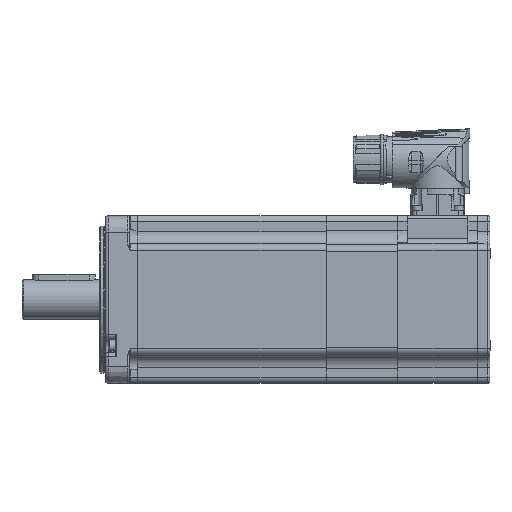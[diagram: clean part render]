
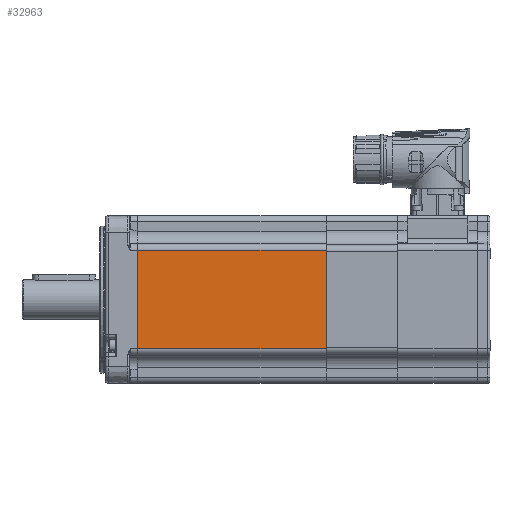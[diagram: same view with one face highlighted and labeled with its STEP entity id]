
A CAD part, left-side view. The second image highlights one B-rep face of the part: STEP entity #32963.
In plain terms, the highlighted planar face has unit normal (-1, 0, 0) as drawn and (0, -1, 0) by its records, which use the part's own axes.
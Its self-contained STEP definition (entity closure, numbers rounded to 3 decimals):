
#3222=LINE('',#65713,#5298);
#3230=LINE('',#65764,#5306);
#3237=LINE('',#65815,#5313);
#3238=LINE('',#65816,#5314);
#5298=VECTOR('',#53268,1000.);
#5306=VECTOR('',#53312,1000.);
#5313=VECTOR('',#53365,1000.);
#5314=VECTOR('',#53366,1000.);
#6660=PLANE('',#47477);
#10976=ORIENTED_EDGE('',*,*,#18583,.T.);
#10977=ORIENTED_EDGE('',*,*,#18561,.T.);
#10978=ORIENTED_EDGE('',*,*,#18584,.T.);
#10979=ORIENTED_EDGE('',*,*,#18536,.T.);
#18536=EDGE_CURVE('',#22686,#22685,#3222,.T.);
#18561=EDGE_CURVE('',#22711,#22710,#3230,.T.);
#18583=EDGE_CURVE('',#22685,#22711,#3237,.F.);
#18584=EDGE_CURVE('',#22710,#22686,#3238,.F.);
#22685=VERTEX_POINT('',#65712);
#22686=VERTEX_POINT('',#65714);
#22710=VERTEX_POINT('',#65763);
#22711=VERTEX_POINT('',#65765);
#27164=EDGE_LOOP('',(#10976,#10977,#10978,#10979));
#29909=FACE_BOUND('',#27164,.T.);
#32963=ADVANCED_FACE('',(#29909),#6660,.T.);
#47477=AXIS2_PLACEMENT_3D('',#65814,#53363,#53364);
#53268=DIRECTION('',(0.,0.,-1.));
#53312=DIRECTION('',(0.,0.,1.));
#53363=DIRECTION('',(0.,-1.,0.));
#53364=DIRECTION('',(0.,0.,-1.));
#53365=DIRECTION('',(-1.,0.,0.));
#53366=DIRECTION('',(1.,0.,0.));
#65712=CARTESIAN_POINT('',(-91.,-40.,-23.5));
#65713=CARTESIAN_POINT('',(-91.,-40.,40.));
#65714=CARTESIAN_POINT('',(-91.,-40.,23.5));
#65763=CARTESIAN_POINT('',(-1.,-40.,23.5));
#65764=CARTESIAN_POINT('',(-1.,-40.,40.));
#65765=CARTESIAN_POINT('',(-1.,-40.,-23.5));
#65814=CARTESIAN_POINT('',(-200.,-40.,40.));
#65815=CARTESIAN_POINT('',(0.,-40.,-23.5));
#65816=CARTESIAN_POINT('',(-200.,-40.,23.5));
